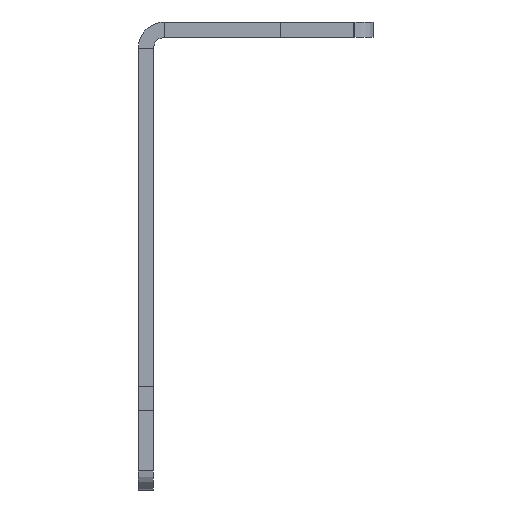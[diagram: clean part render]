
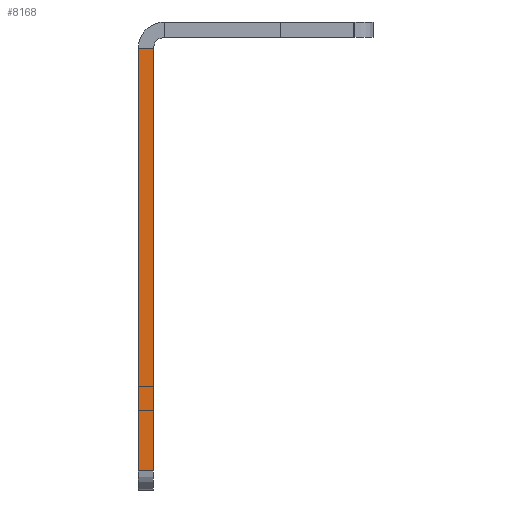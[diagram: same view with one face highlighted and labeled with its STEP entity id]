
A CAD part, front view. The second image highlights one B-rep face of the part: STEP entity #8168.
In plain terms, the highlighted planar face has unit normal (0, -1, 0).
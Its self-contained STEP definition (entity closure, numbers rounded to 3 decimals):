
#869 = EDGE_CURVE ( 'NONE', #19820, #14467, #35843, .T. ) ;
#1823 = CARTESIAN_POINT ( 'NONE',  ( 2., -1051., -3.5 ) ) ;
#2836 = PLANE ( 'NONE',  #12416 ) ;
#4036 = CARTESIAN_POINT ( 'NONE',  ( 0., -1051., -3.5 ) ) ;
#4541 = ORIENTED_EDGE ( 'NONE', *, *, #869, .T. ) ;
#5641 = EDGE_CURVE ( 'NONE', #46186, #54744, #46251, .T. ) ;
#6857 = EDGE_LOOP ( 'NONE', ( #8823, #38896, #4541, #43360 ) ) ;
#7428 = CARTESIAN_POINT ( 'NONE',  ( 3.5, -1051., -3.5 ) ) ;
#8168 = ADVANCED_FACE ( 'NONE', ( #15482 ), #2836, .F. ) ;
#8823 = ORIENTED_EDGE ( 'NONE', *, *, #5641, .F. ) ;
#9105 = CARTESIAN_POINT ( 'NONE',  ( 2., -1051., -61.5 ) ) ;
#12416 = AXIS2_PLACEMENT_3D ( 'NONE', #7428, #15764, #33307 ) ;
#14467 = VERTEX_POINT ( 'NONE', #1823 ) ;
#15482 = FACE_OUTER_BOUND ( 'NONE', #6857, .T. ) ;
#15764 = DIRECTION ( 'NONE',  ( 0., 1., 0. ) ) ;
#17706 = EDGE_CURVE ( 'NONE', #46186, #19820, #27765, .T. ) ;
#17866 = CARTESIAN_POINT ( 'NONE',  ( 2., -1051., -59. ) ) ;
#17994 = CARTESIAN_POINT ( 'NONE',  ( 2., -1051., -59. ) ) ;
#19820 = VERTEX_POINT ( 'NONE', #17866 ) ;
#20620 = DIRECTION ( 'NONE',  ( 0., 0., 1. ) ) ;
#20670 = VECTOR ( 'NONE', #41629, 1000. ) ;
#21333 = EDGE_CURVE ( 'NONE', #14467, #54744, #37604, .T. ) ;
#24076 = CARTESIAN_POINT ( 'NONE',  ( 2., -1051., -3.5 ) ) ;
#27765 = LINE ( 'NONE', #17994, #55540 ) ;
#29581 = VECTOR ( 'NONE', #53369, 1000. ) ;
#33307 = DIRECTION ( 'NONE',  ( 1., 0., 0. ) ) ;
#35843 = LINE ( 'NONE', #9105, #29581 ) ;
#37117 = CARTESIAN_POINT ( 'NONE',  ( 0., -1051., -59. ) ) ;
#37604 = LINE ( 'NONE', #24076, #20670 ) ;
#38896 = ORIENTED_EDGE ( 'NONE', *, *, #17706, .T. ) ;
#41005 = DIRECTION ( 'NONE',  ( 1., 0., 0. ) ) ;
#41629 = DIRECTION ( 'NONE',  ( -1., 0., 0. ) ) ;
#43360 = ORIENTED_EDGE ( 'NONE', *, *, #21333, .T. ) ;
#46186 = VERTEX_POINT ( 'NONE', #37117 ) ;
#46251 = LINE ( 'NONE', #54568, #47829 ) ;
#47829 = VECTOR ( 'NONE', #20620, 1000. ) ;
#53369 = DIRECTION ( 'NONE',  ( 0., 0., 1. ) ) ;
#54568 = CARTESIAN_POINT ( 'NONE',  ( 0., -1051., -61.5 ) ) ;
#54744 = VERTEX_POINT ( 'NONE', #4036 ) ;
#55540 = VECTOR ( 'NONE', #41005, 1000. ) ;
